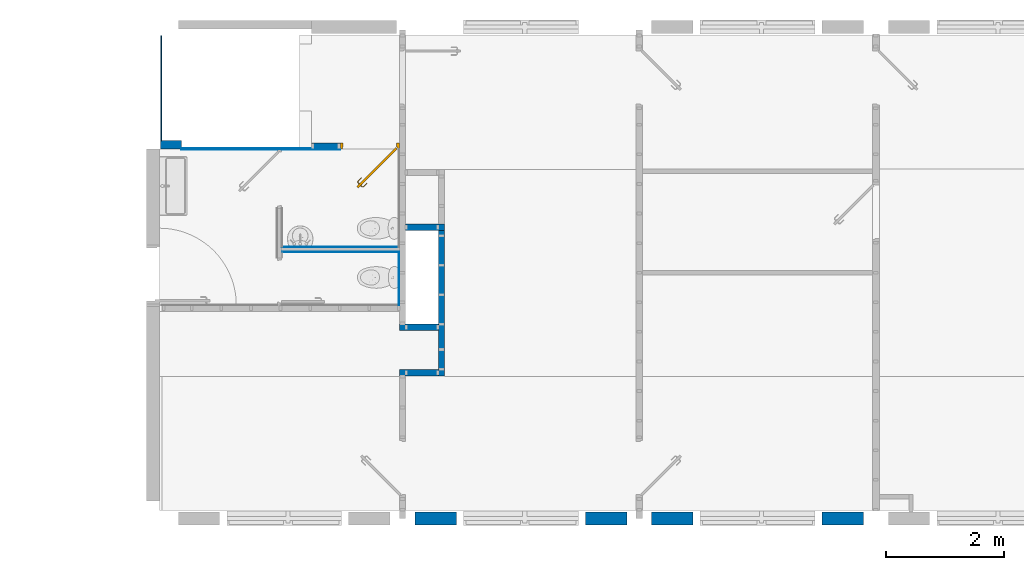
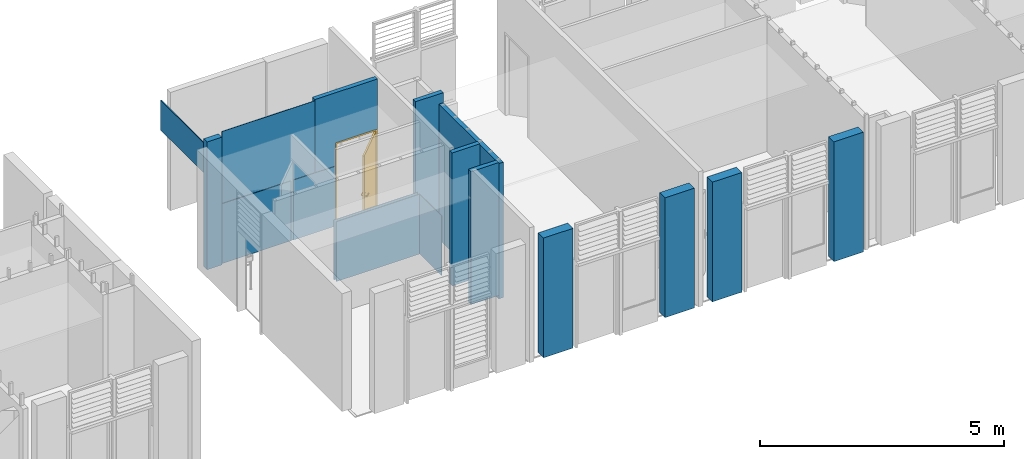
# One storey, part 8 of 20: 17 walls, 1 door, 2 openings.
"""IFC2X3 building model written with IfcOpenShell, lengths in metres."""

from ifc_helpers import new_model, entity, si_unit, converted_unit, derived_unit, direction, frame, frame_2d, origin, place, context, subcontext, project, spatial, rectangle, extrude, faceted_brep, source, transform, mapped, material, layer, layer_set, layer_usage, type_object, type_shapes, element, fill, save


model = new_model("IFC2X3")

# Units and contexts
model_context = context("Model", 3, precision=1e-05, world=origin(), true_north=direction((6.12303176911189e-17, 1.0)))
body_context = subcontext(model_context, "Body", "Model", "MODEL_VIEW")
ifc_project = project(units=[si_unit("LENGTHUNIT", "METRE"), si_unit("AREAUNIT", "SQUARE_METRE"), si_unit("VOLUMEUNIT", "CUBIC_METRE"), converted_unit("PLANEANGLEUNIT", "DEGREE", entity("IfcRatioMeasure", 0.0174532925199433), si_unit("PLANEANGLEUNIT", "RADIAN"), dimensions=[0, 0, 0, 0, 0, 0, 0]), si_unit("MASSUNIT", "GRAM", prefix="KILO"), derived_unit("MASSDENSITYUNIT", [(si_unit("MASSUNIT", "GRAM", prefix="KILO"), 1), (si_unit("LENGTHUNIT", "METRE"), -3)]), si_unit("TIMEUNIT", "SECOND"), si_unit("FREQUENCYUNIT", "HERTZ"), si_unit("THERMODYNAMICTEMPERATUREUNIT", "DEGREE_CELSIUS"), derived_unit("THERMALTRANSMITTANCEUNIT", [(si_unit("MASSUNIT", "GRAM", prefix="KILO"), 1), (si_unit("THERMODYNAMICTEMPERATUREUNIT", "KELVIN"), -1), (si_unit("TIMEUNIT", "SECOND"), -3)]), derived_unit("VOLUMETRICFLOWRATEUNIT", [(si_unit("LENGTHUNIT", "METRE"), 3), (si_unit("TIMEUNIT", "SECOND"), -1)]), si_unit("ELECTRICCURRENTUNIT", "AMPERE"), si_unit("ELECTRICVOLTAGEUNIT", "VOLT"), si_unit("POWERUNIT", "WATT"), si_unit("FORCEUNIT", "NEWTON", prefix="KILO"), si_unit("ILLUMINANCEUNIT", "LUX"), si_unit("LUMINOUSFLUXUNIT", "LUMEN"), si_unit("LUMINOUSINTENSITYUNIT", "CANDELA"), derived_unit("USERDEFINED", [(si_unit("MASSUNIT", "GRAM", prefix="KILO"), -1), (si_unit("LENGTHUNIT", "METRE"), -2), (si_unit("TIMEUNIT", "SECOND"), 3), (si_unit("LUMINOUSFLUXUNIT", "LUMEN"), 1)]), derived_unit("LINEARVELOCITYUNIT", [(si_unit("LENGTHUNIT", "METRE"), 1), (si_unit("TIMEUNIT", "SECOND"), -1)]), si_unit("PRESSUREUNIT", "PASCAL"), derived_unit("USERDEFINED", [(si_unit("LENGTHUNIT", "METRE"), -2), (si_unit("MASSUNIT", "GRAM", prefix="KILO"), 1), (si_unit("TIMEUNIT", "SECOND"), -2)])], contexts=[model_context])

# Site, building, storey
site_placement = place(None, origin())
site = spatial("IfcSite", under=ifc_project, at=site_placement, Name="Surface", CompositionType="ELEMENT")
building_placement = place(site_placement, origin())
building = spatial("IfcBuilding", under=site, at=building_placement, Name="ExPREF", CompositionType="ELEMENT")
storey_placement = place(building_placement, frame((0.0, 0.0, 4.27)))
storey = spatial("IfcBuildingStorey", under=building, at=storey_placement, Name="R+1", CompositionType="ELEMENT", Elevation=4.27)

# Wall, opening, door
ifc_material_1 = material(Name="AA-peinture blanc satiné")
ifc_layer_1 = layer(ifc_material_1, 0.0125)
ifc_material_2 = material(Name="AA-isolant plancher")
ifc_layer_2 = layer(ifc_material_2, 0.08)
ifc_layer_3 = layer(ifc_material_1, 0.0125)
ifc_layer_set_1 = layer_set([ifc_layer_1, ifc_layer_2, ifc_layer_3], Name="Mur de base:A-cloison FC 10.5 cm")
ifc_layer_usage_1 = layer_usage(ifc_layer_set_1, "AXIS2", "NEGATIVE", 0.0525)
wall_type_1 = type_object("IfcWallType", Name="Mur de base:A-cloison FC 10.5 cm", PredefinedType="STANDARD", material=ifc_layer_set_1)
wall_1_placement = place(storey_placement, frame((47.949743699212, -187.066488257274, 0.0)))
wall_1 = element("IfcWallStandardCase", 1, at=wall_1_placement, inside=storey, type_object=wall_type_1, material=ifc_layer_usage_1, Name="Mur de base:A-cloison FC 10.5 cm", ObjectType="Mur de base:A-cloison FC 10.5 cm", context=body_context, shape_type="SweptSolid", body=[
    extrude(rectangle(XDim=1.48750000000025, YDim=0.104999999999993, at=frame_2d((0.743750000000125, 0.0), x_axis=(-1.0, 0.0))), origin(), (0.0, 0.0, 1.0), 3.33),
])
opening_1_placement = place(wall_1_placement, frame((1.48750000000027, 0.0525, 0.0)))
opening_1 = element("IfcOpeningElement", 2, at=opening_1_placement, cuts=wall_1, Name="Porte intérieur bois:PP (0.93m x 2.04m):1", ObjectType="Opening", context=body_context, shape_type="SweptSolid", body=[
    extrude(rectangle(XDim=2.075, YDim=1.0, at=frame_2d((1.0375, 0.5), x_axis=(1.0, 0.0))), frame((0.0, 0.0, 0.0), z_axis=(0.0, -1.0, 0.0), x_axis=(0.0, 0.0, 1.0)), (0.0, 0.0, 1.0), 0.105),
])
ifc_material_3 = material(Name="AA-Blanc satiné")
door_style = type_object("IfcDoorStyle", Name="PP (0.93m x 2.04m)", ConstructionType="NOTDEFINED", OperationType="SINGLE_SWING_LEFT", ParameterTakesPrecedence=False, Sizeable=False, material=ifc_material_3)
shared_shape = source(origin(), body_context, "Body", "Brep", [
    faceted_brep([(0.316565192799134, -0.584795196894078, 1.00778044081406), (0.313754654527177, -0.587605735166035, 1.007), (0.31375465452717, -0.587605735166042, 0.992999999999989), (0.316565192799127, -0.584795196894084, 0.99221955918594), (0.319429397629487, -0.581930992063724, 0.992219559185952), (0.32223993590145, -0.579120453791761, 0.993000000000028), (0.322239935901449, -0.579120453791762, 1.007), (0.319429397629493, -0.581930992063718, 1.00778044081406), (0.306340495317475, -0.563221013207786, 0.993000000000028), (0.306340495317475, -0.563221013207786, 1.007), (0.302365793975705, -0.56486738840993, 1.00778044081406), (0.302365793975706, -0.545331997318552, 1.00778044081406), (0.298315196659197, -0.543654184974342, 1.00778044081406), (0.298315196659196, -0.56654520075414, 1.00778044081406), (0.294340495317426, -0.568191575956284, 1.007), (0.294340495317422, -0.568191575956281, 0.992999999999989), (0.298315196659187, -0.566545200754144, 0.99221955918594), (0.298315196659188, -0.543654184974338, 0.99221955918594), (0.302365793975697, -0.545331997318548, 0.992219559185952), (0.302365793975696, -0.564867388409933, 0.992219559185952), (0.306340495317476, -0.546978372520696, 0.993000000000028), (0.306340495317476, -0.546978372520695, 1.007), (0.294340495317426, -0.542007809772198, 1.007), (0.294340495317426, -0.542007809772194, 0.992999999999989), (0.36471958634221, -0.488599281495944, 0.993000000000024), (0.361909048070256, -0.485788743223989, 0.992219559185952), (0.359044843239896, -0.48292453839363, 0.99221955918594), (0.356234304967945, -0.480114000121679, 0.992999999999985), (0.356234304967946, -0.480114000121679, 1.007), (0.359044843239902, -0.482924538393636, 1.00778044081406), (0.361909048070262, -0.485788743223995, 1.00778044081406), (0.364719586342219, -0.488599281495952, 1.007), (0.335530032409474, -0.517788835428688, 0.993000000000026), (0.335530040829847, -0.517788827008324, 1.007), (0.330705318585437, -0.51412826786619, 1.0078786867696), (0.322575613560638, -0.513772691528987, 1.007), (0.322575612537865, -0.513772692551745, 0.992999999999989), (0.330705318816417, -0.514128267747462, 0.992121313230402)], [[[0, 1, 2, 3, 4, 5, 6, 7]], [[6, 5, 8, 9]], [[9, 10, 7, 6]], [[10, 11, 12, 13, 0, 7]], [[13, 14, 1, 0]], [[2, 1, 14, 15]], [[15, 16, 3, 2]], [[16, 17, 18, 19, 4, 3]], [[19, 8, 5, 4]], [[9, 8, 20, 21]], [[21, 11, 10, 9]], [[12, 22, 14, 13]], [[15, 14, 22, 23]], [[23, 17, 16, 15]], [[18, 20, 8, 19]], [[24, 25, 26, 27, 28, 29, 30, 31]], [[21, 20, 32, 24, 31, 33]], [[33, 30, 34]], [[35, 34, 29]], [[21, 33, 11]], [[33, 31, 30]], [[28, 35, 29]], [[22, 12, 35]], [[35, 12, 34]], [[12, 11, 34]], [[11, 33, 34]], [[29, 34, 30]], [[22, 35, 28, 27, 36, 23]], [[36, 26, 37]], [[27, 26, 36]], [[17, 23, 36]], [[37, 32, 18]], [[20, 18, 32]], [[32, 25, 24]], [[26, 25, 37]], [[25, 32, 37]], [[17, 36, 37]], [[17, 37, 18]]]),
    faceted_brep([(0.351920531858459, -0.620150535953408, 1.00778044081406), (0.354784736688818, -0.617286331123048, 1.00778044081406), (0.357595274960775, -0.614475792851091, 1.00699999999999), (0.357595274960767, -0.614475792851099, 0.993000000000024), (0.354784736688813, -0.617286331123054, 0.992219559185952), (0.351920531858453, -0.620150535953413, 0.99221955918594), (0.349109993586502, -0.622961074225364, 0.992999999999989), (0.349109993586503, -0.622961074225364, 1.007), (0.368662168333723, -0.642513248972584, 1.007), (0.370308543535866, -0.638538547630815, 1.00778044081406), (0.3930050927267, -0.638538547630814, 1.00778044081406), (0.391327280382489, -0.634487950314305, 1.00778044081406), (0.371986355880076, -0.634487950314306, 1.00778044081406), (0.373632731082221, -0.630513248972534, 1.007), (0.373632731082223, -0.630513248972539, 0.993000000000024), (0.371986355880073, -0.634487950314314, 0.992219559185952), (0.391327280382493, -0.634487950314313, 0.992219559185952), (0.393005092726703, -0.638538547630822, 0.99221955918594), (0.370308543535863, -0.638538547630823, 0.99221955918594), (0.368662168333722, -0.642513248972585, 0.992999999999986), (0.394651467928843, -0.642513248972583, 1.007), (0.389680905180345, -0.630513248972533, 1.007), (0.38968090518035, -0.630513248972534, 0.993000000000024), (0.394651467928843, -0.642513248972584, 0.992999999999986), (0.456623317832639, -0.580541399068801, 0.992999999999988), (0.453812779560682, -0.577730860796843, 0.99221955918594), (0.450948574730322, -0.574866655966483, 0.992219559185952), (0.448138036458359, -0.57205611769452, 0.993000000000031), (0.44813803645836, -0.572056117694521, 1.007), (0.450948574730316, -0.574866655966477, 1.00778044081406), (0.453812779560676, -0.577730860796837, 1.00778044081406), (0.456623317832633, -0.580541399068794, 1.00699999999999), (0.422886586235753, -0.614278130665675, 1.007), (0.422570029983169, -0.606109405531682, 1.0078786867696), (0.418909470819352, -0.601284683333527, 1.007), (0.418909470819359, -0.601284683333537, 0.993000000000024), (0.422570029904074, -0.606109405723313, 0.992121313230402), (0.422886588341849, -0.614278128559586, 0.992999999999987)], [[[0, 1, 2, 3, 4, 5, 6, 7]], [[8, 9, 0, 7]], [[9, 10, 11, 12, 1, 0]], [[12, 13, 2, 1]], [[3, 2, 13, 14]], [[14, 15, 4, 3]], [[15, 16, 17, 18, 5, 4]], [[18, 19, 6, 5]], [[7, 6, 19, 8]], [[20, 10, 9, 8]], [[11, 21, 13, 12]], [[14, 13, 21, 22]], [[22, 16, 15, 14]], [[17, 23, 19, 18]], [[8, 19, 23, 20]], [[24, 25, 26, 27, 28, 29, 30, 31]], [[32, 30, 33]], [[31, 30, 32]], [[10, 20, 32]], [[33, 34, 11]], [[21, 11, 34]], [[34, 29, 28]], [[30, 29, 33]], [[29, 34, 33]], [[10, 32, 33]], [[10, 33, 11]], [[22, 21, 34, 28, 27, 35]], [[35, 26, 36]], [[37, 36, 25]], [[22, 35, 16]], [[35, 27, 26]], [[24, 37, 25]], [[23, 17, 37]], [[37, 17, 36]], [[17, 16, 36]], [[16, 35, 36]], [[25, 36, 26]], [[20, 23, 37, 24, 31, 32]]]),
    faceted_brep([(0.328853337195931, -0.579578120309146, 0.866003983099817), (0.335674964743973, -0.572756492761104, 0.870000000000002), (0.335674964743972, -0.572756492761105, 1.08), (0.32885333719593, -0.579578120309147, 1.08399601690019), (0.321532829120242, -0.586898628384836, 1.08535898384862), (0.314212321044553, -0.594219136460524, 1.08399601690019), (0.307390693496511, -0.601040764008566, 1.08), (0.307390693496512, -0.601040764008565, 0.870000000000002), (0.314212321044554, -0.594219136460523, 0.866003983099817), (0.321532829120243, -0.586898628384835, 0.86464101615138), (0.325317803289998, -0.576042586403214, 1.08399601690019), (0.33213943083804, -0.569220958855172, 1.08), (0.332139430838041, -0.569220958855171, 0.870000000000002), (0.325317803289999, -0.576042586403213, 0.866003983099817), (0.31799729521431, -0.583363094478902, 0.86464101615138), (0.310676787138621, -0.59068360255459, 0.866003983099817), (0.303855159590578, -0.597505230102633, 0.870000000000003), (0.303855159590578, -0.597505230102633, 1.08), (0.31067678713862, -0.590683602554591, 1.08399601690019), (0.317997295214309, -0.583363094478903, 1.08535898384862)], [[[0, 1, 2, 3, 4, 5, 6, 7, 8, 9]], [[10, 11, 12, 13, 14, 15, 16, 17, 18, 19]], [[11, 10, 3, 2]], [[3, 10, 19, 4]], [[19, 18, 5, 4]], [[18, 17, 6, 5]], [[7, 6, 17, 16]], [[16, 15, 8, 7]], [[8, 15, 14, 9]], [[14, 13, 0, 9]], [[13, 12, 1, 0]], [[2, 1, 12, 11]]]),
    faceted_brep([(0.360673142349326, -0.61139792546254, 0.866003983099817), (0.367494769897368, -0.604576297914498, 0.870000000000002), (0.367494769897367, -0.604576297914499, 1.08), (0.360673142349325, -0.611397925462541, 1.08399601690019), (0.353352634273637, -0.61871843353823, 1.08535898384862), (0.346032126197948, -0.626038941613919, 1.08399601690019), (0.339210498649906, -0.632860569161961, 1.08), (0.339210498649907, -0.63286056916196, 0.870000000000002), (0.346032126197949, -0.626038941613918, 0.866003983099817), (0.353352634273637, -0.618718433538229, 0.86464101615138), (0.357137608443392, -0.607862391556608, 1.08399601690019), (0.363959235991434, -0.601040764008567, 1.08), (0.363959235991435, -0.601040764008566, 0.870000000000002), (0.357137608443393, -0.607862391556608, 0.866003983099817), (0.349817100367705, -0.615182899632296, 0.86464101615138), (0.342496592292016, -0.622503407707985, 0.866003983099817), (0.335674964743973, -0.629325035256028, 0.870000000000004), (0.335674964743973, -0.629325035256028, 1.08), (0.342496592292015, -0.622503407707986, 1.08399601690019), (0.349817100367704, -0.615182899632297, 1.08535898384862)], [[[0, 1, 2, 3, 4, 5, 6, 7, 8, 9]], [[10, 11, 12, 13, 14, 15, 16, 17, 18, 19]], [[16, 15, 8, 7]], [[8, 15, 14, 9]], [[14, 13, 0, 9]], [[13, 12, 1, 0]], [[2, 1, 12, 11]], [[11, 10, 3, 2]], [[3, 10, 19, 4]], [[19, 18, 5, 4]], [[18, 17, 6, 5]], [[7, 6, 17, 16]]]),
    faceted_brep([(0.279106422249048, -0.629325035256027, 2.04), (0.936715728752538, 0.0282842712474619, 2.04), (0.936715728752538, 0.0282842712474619, 0.0), (0.279106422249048, -0.629325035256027, 0.0), (0.30739069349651, -0.657609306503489, 2.04), (0.30739069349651, -0.657609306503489, 0.0), (0.965, 0.0, 0.0), (0.965, 0.0, 2.04)], [[[0, 1, 2, 3]], [[4, 5, 6, 7]], [[1, 0, 4, 7]], [[2, 1, 7, 6]], [[3, 2, 6, 5]], [[0, 3, 5, 4]]]),
    faceted_brep([(0.0, 0.0, 0.0), (0.0, 0.105000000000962, 0.0), (0.0499999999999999, 0.105000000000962, 0.0), (0.0499999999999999, 0.0400000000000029, 0.0), (0.0349999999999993, 0.0400000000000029, 0.0), (0.0349999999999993, 0.0, 0.0), (0.0, 0.0, 2.07500000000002), (0.0, 0.105000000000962, 2.07500000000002), (1.0, 0.105000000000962, 2.07500000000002), (1.0, 0.105000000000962, 0.0), (0.95, 0.105000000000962, 0.0), (0.95, 0.105000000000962, 2.025), (0.0500000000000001, 0.105000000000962, 2.025), (0.05, 0.0400000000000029, 2.025), (0.95, 0.0400000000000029, 2.025), (0.95, 0.0400000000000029, 0.0), (0.965, 0.0400000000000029, 0.0), (0.965, 0.0400000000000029, 2.04), (0.0349999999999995, 0.0400000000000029, 2.04), (0.0349999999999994, 0.0, 2.04), (0.965, 0.0, 2.04), (0.965, 0.0, 0.0), (1.0, 0.0, 0.0), (1.0, 0.0, 2.07500000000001)], [[[0, 1, 2, 3, 4, 5]], [[1, 0, 6, 7]], [[2, 1, 7, 8, 9, 10, 11, 12]], [[3, 2, 12, 13]], [[4, 3, 13, 14, 15, 16, 17, 18]], [[5, 4, 18, 19]], [[0, 5, 19, 20, 21, 22, 23, 6]], [[8, 23, 22, 9]], [[22, 21, 16, 15, 10, 9]], [[14, 11, 10, 15]], [[20, 17, 16, 21]], [[7, 6, 23, 8]], [[13, 12, 11, 14]], [[19, 18, 17, 20]]]),
])
type_shapes(door_style, [shared_shape])
door_placement = place(opening_1_placement, frame((-1.0, -0.10499999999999, 0.0)))
door = element("IfcDoor", 3, at=door_placement, inside=storey, type_object=door_style, material=ifc_material_3, Name="Porte intérieur bois:PP (0.93m x 2.04m)", ObjectType="PP (0.93m x 2.04m)", OverallHeight=2.075, OverallWidth=0.999999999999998, context=body_context, shape_type="MappedRepresentation", body=[
    mapped(shared_shape, transform((0.0, 0.0, 0.0), scale=1.0)),
])
fill(opening_1, door)

# Walls
ifc_layer_usage_2 = layer_usage(ifc_layer_set_1, "AXIS2", "NEGATIVE", 0.0525)
wall_2_placement = place(storey_placement, frame((50.2022436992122, -188.438069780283, -0.00999999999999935), z_axis=(0.0, 0.0, 1.0), x_axis=(-1.0, 0.0, 0.0)))
element("IfcWallStandardCase", 4, at=wall_2_placement, inside=storey, type_object=wall_type_1, material=ifc_layer_usage_2, Name="Mur de base:A-cloison FC 10.5 cm", ObjectType="Mur de base:A-cloison FC 10.5 cm", context=body_context, shape_type="SweptSolid", body=[
    extrude(rectangle(XDim=0.660000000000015, YDim=0.104999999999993, at=frame_2d((0.330000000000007, 0.0), x_axis=(-1.0, 0.0))), origin(), (0.0, 0.0, 1.0), 3.56),
])
ifc_layer_usage_3 = layer_usage(ifc_layer_set_1, "AXIS2", "NEGATIVE", 0.0525)
wall_3_placement = place(storey_placement, frame((50.1497436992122, -188.385569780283, -0.0900000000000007), z_axis=(0.0, 0.0, 1.0), x_axis=(0.0, -1.0, 0.0)))
element("IfcWallStandardCase", 5, at=wall_3_placement, inside=storey, type_object=wall_type_1, material=ifc_layer_usage_3, Name="Mur de base:A-cloison FC 10.5 cm", ObjectType="Mur de base:A-cloison FC 10.5 cm", context=body_context, shape_type="SweptSolid", body=[
    extrude(rectangle(XDim=2.56700000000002, YDim=0.105000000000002, at=frame_2d((1.28350000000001, -4.32986979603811e-15), x_axis=(-1.0, 0.0))), origin(), (0.0, 0.0, 1.0), 3.39),
])
ifc_layer_usage_4 = layer_usage(ifc_layer_set_1, "AXIS2", "NEGATIVE", 0.0525)
wall_4_placement = place(storey_placement, frame((50.0972436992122, -190.900069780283, 0.0), z_axis=(0.0, 0.0, 1.0), x_axis=(-1.0, 0.0, 0.0)))
element("IfcWallStandardCase", 6, at=wall_4_placement, inside=storey, type_object=wall_type_1, material=ifc_layer_usage_4, Name="Mur de base:A-cloison FC 10.5 cm", ObjectType="Mur de base:A-cloison FC 10.5 cm", context=body_context, shape_type="SweptSolid", body=[
    extrude(rectangle(XDim=0.660000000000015, YDim=0.104999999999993, at=frame_2d((0.330000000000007, 0.0), x_axis=(-1.0, 0.0))), origin(), (0.0, 0.0, 1.0), 3.33),
])
ifc_layer_usage_5 = layer_usage(ifc_layer_set_1, "AXIS2", "NEGATIVE", 0.0525)
wall_5_placement = place(storey_placement, frame((49.4372436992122, -190.128069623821, 0.0)))
element("IfcWallStandardCase", 7, at=wall_5_placement, inside=storey, type_object=wall_type_1, material=ifc_layer_usage_5, Name="Mur de base:A-cloison FC 10.5 cm", ObjectType="Mur de base:A-cloison FC 10.5 cm", context=body_context, shape_type="SweptSolid", body=[
    extrude(rectangle(XDim=0.660000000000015, YDim=0.104999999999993, at=frame_2d((0.330000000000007, 0.0), x_axis=(-1.0, 0.0))), origin(), (0.0, 0.0, 1.0), 3.33),
])
ifc_material_4 = material(Name="AA-BTC")
ifc_layer_4 = layer(ifc_material_4, 0.22)
ifc_layer_set_2 = layer_set([ifc_layer_4], Name="Mur de base:A-prémur BTC")
ifc_layer_usage_6 = layer_usage(ifc_layer_set_2, "AXIS2", "NEGATIVE", 0.11)
wall_type_2 = type_object("IfcWallType", Name="Mur de base:A-prémur BTC", PredefinedType="STANDARD", material=ifc_layer_set_2)
wall_6_placement = place(storey_placement, frame((49.6997436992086, -193.35965130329, 0.0999999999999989)))
element("IfcWallStandardCase", 8, at=wall_6_placement, inside=storey, type_object=wall_type_2, material=ifc_layer_usage_6, Name="Mur de base:A-prémur BTC", ObjectType="Mur de base:A-prémur BTC", context=body_context, shape_type="SweptSolid", body=[
    extrude(rectangle(XDim=0.699999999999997, YDim=0.220000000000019, at=frame_2d((0.349999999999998, -4.47558656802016e-15), x_axis=(-1.0, 0.0))), origin(), (0.0, 0.0, 1.0), 3.0),
])
ifc_layer_usage_7 = layer_usage(ifc_layer_set_2, "AXIS2", "POSITIVE", -0.11)
wall_7_placement = place(storey_placement, frame((53.2797436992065, -193.35965130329, 0.0999999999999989), z_axis=(0.0, 0.0, 1.0), x_axis=(-1.0, 0.0, 0.0)))
element("IfcWallStandardCase", 9, at=wall_7_placement, inside=storey, type_object=wall_type_2, material=ifc_layer_usage_7, Name="Mur de base:A-prémur BTC", ObjectType="Mur de base:A-prémur BTC", context=body_context, shape_type="SweptSolid", body=[
    extrude(rectangle(XDim=0.700000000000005, YDim=0.220000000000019, at=frame_2d((0.350000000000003, -4.47558656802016e-15), x_axis=(-1.0, 0.0))), origin(), (0.0, 0.0, 1.0), 3.0),
])
ifc_layer_usage_8 = layer_usage(ifc_layer_set_2, "AXIS2", "NEGATIVE", 0.11)
wall_8_placement = place(storey_placement, frame((53.6997436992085, -193.35965130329, 0.0999999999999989)))
element("IfcWallStandardCase", 10, at=wall_8_placement, inside=storey, type_object=wall_type_2, material=ifc_layer_usage_8, Name="Mur de base:A-prémur BTC", ObjectType="Mur de base:A-prémur BTC", context=body_context, shape_type="SweptSolid", body=[
    extrude(rectangle(XDim=0.699999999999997, YDim=0.220000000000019, at=frame_2d((0.349999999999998, -4.47558656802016e-15), x_axis=(-1.0, 0.0))), origin(), (0.0, 0.0, 1.0), 3.0),
])
ifc_layer_usage_9 = layer_usage(ifc_layer_set_2, "AXIS2", "POSITIVE", -0.11)
wall_9_placement = place(storey_placement, frame((57.2797436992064, -193.35965130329, 0.0999999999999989), z_axis=(0.0, 0.0, 1.0), x_axis=(-1.0, 0.0, 0.0)))
element("IfcWallStandardCase", 11, at=wall_9_placement, inside=storey, type_object=wall_type_2, material=ifc_layer_usage_9, Name="Mur de base:A-prémur BTC", ObjectType="Mur de base:A-prémur BTC", context=body_context, shape_type="SweptSolid", body=[
    extrude(rectangle(XDim=0.700000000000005, YDim=0.220000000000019, at=frame_2d((0.350000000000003, -4.47558656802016e-15), x_axis=(-1.0, 0.0))), origin(), (0.0, 0.0, 1.0), 3.0),
])
ifc_layer_5 = layer(ifc_material_4, 0.14)
ifc_layer_set_3 = layer_set([ifc_layer_5], Name="Mur de base:A-mur BTC 14 cm")
ifc_layer_usage_10 = layer_usage(ifc_layer_set_3, "AXIS2", "NEGATIVE", 0.07)
wall_type_3 = type_object("IfcWallType", Name="Mur de base:A-mur BTC 14 cm", PredefinedType="STANDARD", material=ifc_layer_set_3)
wall_10_placement = place(storey_placement, frame((45.749743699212, -187.046488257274, -0.0400000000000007), z_axis=(0.0, 0.0, 1.0), x_axis=(-1.0, 0.0, 0.0)))
element("IfcWallStandardCase", 12, at=wall_10_placement, inside=storey, type_object=wall_type_3, material=ifc_layer_usage_10, Name="Mur de base:A-mur BTC 14 cm", ObjectType="Mur de base:A-mur BTC 14 cm", context=body_context, shape_type="SweptSolid", body=[
    extrude(rectangle(XDim=0.350000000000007, YDim=0.139999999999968, at=frame_2d((0.175000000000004, 0.0), x_axis=(-1.0, 0.0))), origin(), (0.0, 0.0, 1.0), 3.2),
])
ifc_material_5 = material(Name="AA-bambou")
ifc_layer_6 = layer(ifc_material_5, 0.02)
ifc_layer_set_4 = layer_set([ifc_layer_6], Name="Mur de base:bambou tressé")
ifc_layer_usage_11 = layer_usage(ifc_layer_set_4, "AXIS2", "NEGATIVE", 0.01)
wall_type_4 = type_object("IfcWallType", Name="Mur de base:bambou tressé", PredefinedType="STANDARD", material=ifc_layer_set_4)
wall_11_placement = place(storey_placement, frame((45.409743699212, -185.20648794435, 2.29966035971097), z_axis=(0.0, 0.0, 1.0), x_axis=(0.0, -1.0, 0.0)))
element("IfcWallStandardCase", 13, at=wall_11_placement, inside=storey, type_object=wall_type_4, material=ifc_layer_usage_11, Name="Mur de base:bambou tressé", ObjectType="Mur de base:bambou tressé", context=body_context, shape_type="SweptSolid", body=[
    extrude(rectangle(XDim=1.7700003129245, YDim=0.0199999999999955, at=frame_2d((0.885000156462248, 0.0), x_axis=(-1.0, 0.0))), origin(), (0.0, 0.0, 1.0), 0.750339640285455),
])

# Wall, opening
ifc_material_6 = material(Name="AA-fermacell peint")
ifc_layer_7 = layer(ifc_material_6, 0.0125)
ifc_layer_set_5 = layer_set([ifc_layer_7], Name="Mur de base:A-plaque FC")
ifc_layer_usage_12 = layer_usage(ifc_layer_set_5, "AXIS2", "POSITIVE", -0.00625)
wall_type_5 = type_object("IfcWallType", Name="Mur de base:A-plaque FC", PredefinedType="STANDARD", material=ifc_layer_set_5)
wall_12_placement = place(storey_placement, frame((47.949743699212, -187.112738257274, 0.0), z_axis=(0.0, 0.0, 1.0), x_axis=(-1.0, 0.0, 0.0)))
wall_12 = element("IfcWallStandardCase", 14, at=wall_12_placement, inside=storey, type_object=wall_type_5, material=ifc_layer_usage_12, Name="Mur de base:A-plaque FC", ObjectType="Mur de base:A-plaque FC", context=body_context, shape_type="SweptSolid", body=[
    extrude(rectangle(XDim=2.19999999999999, YDim=0.0125000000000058, at=frame_2d((1.1, 0.0), x_axis=(-1.0, 0.0))), origin(), (0.0, 0.0, 1.0), 3.3),
])
opening_2_placement = place(wall_12_placement, frame((0.575999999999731, 1.00624999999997, 0.0)))
element("IfcOpeningElement", 15, at=opening_2_placement, cuts=wall_12, Name="Mur de base:A-plaque FC", ObjectType="Opening", context=body_context, shape_type="SweptSolid", body=[
    extrude(rectangle(XDim=2.075, YDim=0.0700000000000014, at=frame_2d((0.0, 0.0), x_axis=(0.0, 1.0))), frame((-0.0350000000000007, -1.0, 1.0375), z_axis=(0.0, 1.0, 0.0), x_axis=(1.0, 0.0, 0.0)), (0.0, 0.0, 1.0), 0.999999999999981),
])

# Walls
ifc_material_7 = material(Name="AA-sol carrelage")
ifc_layer_8 = layer(ifc_material_7, 0.01)
ifc_layer_set_6 = layer_set([ifc_layer_8], Name="Mur de base:A-carrelage")
ifc_layer_usage_13 = layer_usage(ifc_layer_set_6, "AXIS2", "NEGATIVE", 0.005)
wall_type_6 = type_object("IfcWallType", Name="Mur de base:A-carrelage", PredefinedType="STANDARD", material=ifc_layer_set_6)
wall_13_placement = place(storey_placement, frame((45.749743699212, -187.123988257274, 0.0)))
element("IfcWallStandardCase", 16, at=wall_13_placement, inside=storey, type_object=wall_type_6, material=ifc_layer_usage_13, Name="Mur de base:A-carrelage", ObjectType="Mur de base:A-carrelage", context=body_context, shape_type="SweptSolid", body=[
    extrude(rectangle(XDim=1.62400000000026, YDim=0.0100000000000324, at=frame_2d((0.812000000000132, 0.0), x_axis=(-1.0, 0.0))), origin(), (0.0, 0.0, 1.0), 1.5),
])
ifc_layer_usage_14 = layer_usage(ifc_layer_set_6, "AXIS2", "NEGATIVE", 0.005)
wall_14_placement = place(storey_placement, frame((47.4437436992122, -187.123988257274, 0.0)))
element("IfcWallStandardCase", 17, at=wall_14_placement, inside=storey, type_object=wall_type_6, material=ifc_layer_usage_14, Name="Mur de base:A-carrelage", ObjectType="Mur de base:A-carrelage", context=body_context, shape_type="SweptSolid", body=[
    extrude(rectangle(XDim=0.993499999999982, YDim=0.0100000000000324, at=frame_2d((0.496749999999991, 0.0), x_axis=(-1.0, 0.0))), origin(), (0.0, 0.0, 1.0), 1.5),
])
ifc_layer_usage_15 = layer_usage(ifc_layer_set_6, "AXIS2", "NEGATIVE", 0.005)
wall_15_placement = place(storey_placement, frame((49.4272436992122, -188.77506962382, 0.0), z_axis=(0.0, 0.0, 1.0), x_axis=(-1.0, 0.0, 0.0)))
element("IfcWallStandardCase", 18, at=wall_15_placement, inside=storey, type_object=wall_type_6, material=ifc_layer_usage_15, Name="Mur de base:A-carrelage", ObjectType="Mur de base:A-carrelage", context=body_context, shape_type="SweptSolid", body=[
    extrude(rectangle(XDim=1.98349999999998, YDim=0.0100000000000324, at=frame_2d((0.991749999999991, 0.0), x_axis=(-1.0, 0.0))), origin(), (0.0, 0.0, 1.0), 1.5),
])
ifc_layer_usage_16 = layer_usage(ifc_layer_set_6, "AXIS2", "NEGATIVE", 0.005)
wall_16_placement = place(storey_placement, frame((47.4537436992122, -188.855069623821, 0.0)))
element("IfcWallStandardCase", 19, at=wall_16_placement, inside=storey, type_object=wall_type_6, material=ifc_layer_usage_16, Name="Mur de base:A-carrelage", ObjectType="Mur de base:A-carrelage", context=body_context, shape_type="SweptSolid", body=[
    extrude(rectangle(XDim=1.98349999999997, YDim=0.0100000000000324, at=frame_2d((0.991749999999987, 0.0), x_axis=(-1.0, 0.0))), origin(), (0.0, 0.0, 1.0), 1.5),
])
ifc_layer_usage_17 = layer_usage(ifc_layer_set_6, "AXIS2", "NEGATIVE", 0.005)
wall_17_placement = place(storey_placement, frame((49.4322436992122, -188.86006962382, 0.0), z_axis=(0.0, 0.0, 1.0), x_axis=(0.0, -1.0, 0.0)))
element("IfcWallStandardCase", 20, at=wall_17_placement, inside=storey, type_object=wall_type_6, material=ifc_layer_usage_17, Name="Mur de base:A-carrelage", ObjectType="Mur de base:A-carrelage", context=body_context, shape_type="SweptSolid", body=[
    extrude(rectangle(XDim=0.895499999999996, YDim=0.00999999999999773, at=frame_2d((0.447749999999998, 0.0), x_axis=(-1.0, 0.0))), origin(), (0.0, 0.0, 1.0), 1.5),
])

save(model, "model.ifc")
